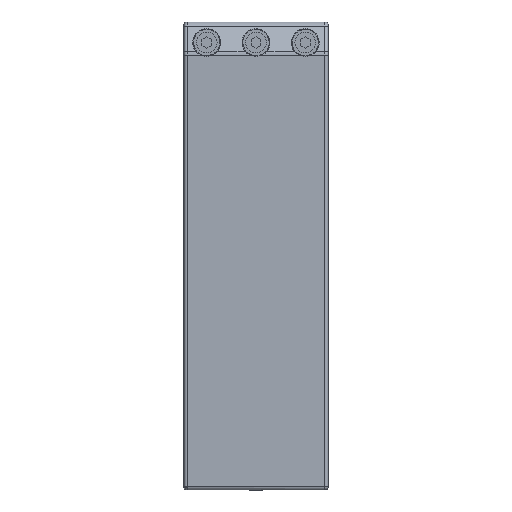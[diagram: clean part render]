
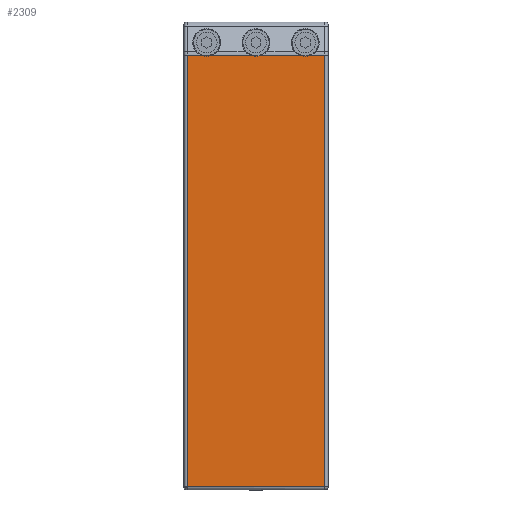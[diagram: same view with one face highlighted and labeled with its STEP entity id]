
A CAD part, top view. The second image highlights one B-rep face of the part: STEP entity #2309.
In plain terms, the highlighted planar face has unit normal (0, 0, 1).
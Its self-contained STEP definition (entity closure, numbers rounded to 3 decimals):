
#1035=CARTESIAN_POINT('Vertex',(-42.,-7.84,60.)) ;
#1042=CARTESIAN_POINT('Vertex',(-42.,-270.5,60.)) ;
#1045=CARTESIAN_POINT('Line Origine',(-42.,-130.,60.)) ;
#1364=CARTESIAN_POINT('Vertex',(42.,-7.84,60.)) ;
#1384=CARTESIAN_POINT('Line Origine',(42.,-130.,60.)) ;
#1388=CARTESIAN_POINT('Vertex',(42.,-270.5,60.)) ;
#2222=CARTESIAN_POINT('Axis2P3D Location',(0.,-7.84,60.)) ;
#2227=CARTESIAN_POINT('Line Origine',(0.,-270.5,60.)) ;
#2232=CARTESIAN_POINT('Line Origine',(37.642,-7.84,60.)) ;
#2236=CARTESIAN_POINT('Vertex',(33.285,-7.84,60.)) ;
#2240=CARTESIAN_POINT('Control Point',(33.285,-7.84,60.)) ;
#2241=CARTESIAN_POINT('Control Point',(32.494,-8.171,60.)) ;
#2242=CARTESIAN_POINT('Control Point',(31.662,-8.402,60.)) ;
#2243=CARTESIAN_POINT('Control Point',(30.805,-8.527,60.)) ;
#2244=CARTESIAN_POINT('Control Point',(29.445,-8.552,60.)) ;
#2245=CARTESIAN_POINT('Control Point',(28.115,-8.31,60.)) ;
#2246=CARTESIAN_POINT('Control Point',(27.637,-8.187,60.)) ;
#2247=CARTESIAN_POINT('Control Point',(27.169,-8.03,60.)) ;
#2248=CARTESIAN_POINT('Control Point',(26.715,-7.84,60.)) ;
#2249=CARTESIAN_POINT('Vertex',(26.715,-7.84,60.)) ;
#2252=CARTESIAN_POINT('Line Origine',(15.,-7.84,60.)) ;
#2256=CARTESIAN_POINT('Vertex',(3.285,-7.84,60.)) ;
#2260=CARTESIAN_POINT('Control Point',(3.285,-7.84,60.)) ;
#2261=CARTESIAN_POINT('Control Point',(2.494,-8.171,60.)) ;
#2262=CARTESIAN_POINT('Control Point',(1.662,-8.402,60.)) ;
#2263=CARTESIAN_POINT('Control Point',(0.805,-8.527,60.)) ;
#2264=CARTESIAN_POINT('Control Point',(-0.555,-8.552,60.)) ;
#2265=CARTESIAN_POINT('Control Point',(-1.885,-8.31,60.)) ;
#2266=CARTESIAN_POINT('Control Point',(-2.363,-8.187,60.)) ;
#2267=CARTESIAN_POINT('Control Point',(-2.831,-8.03,60.)) ;
#2268=CARTESIAN_POINT('Control Point',(-3.285,-7.84,60.)) ;
#2269=CARTESIAN_POINT('Vertex',(-3.285,-7.84,60.)) ;
#2272=CARTESIAN_POINT('Line Origine',(-15.,-7.84,60.)) ;
#2276=CARTESIAN_POINT('Vertex',(-26.715,-7.84,60.)) ;
#2280=CARTESIAN_POINT('Control Point',(-26.715,-7.84,60.)) ;
#2281=CARTESIAN_POINT('Control Point',(-27.506,-8.171,60.)) ;
#2282=CARTESIAN_POINT('Control Point',(-28.338,-8.402,60.)) ;
#2283=CARTESIAN_POINT('Control Point',(-29.195,-8.527,60.)) ;
#2284=CARTESIAN_POINT('Control Point',(-30.555,-8.552,60.)) ;
#2285=CARTESIAN_POINT('Control Point',(-31.885,-8.31,60.)) ;
#2286=CARTESIAN_POINT('Control Point',(-32.363,-8.187,60.)) ;
#2287=CARTESIAN_POINT('Control Point',(-32.831,-8.03,60.)) ;
#2288=CARTESIAN_POINT('Control Point',(-33.285,-7.84,60.)) ;
#2289=CARTESIAN_POINT('Vertex',(-33.285,-7.84,60.)) ;
#2292=CARTESIAN_POINT('Line Origine',(-37.642,-7.84,60.)) ;
#1046=DIRECTION('Vector Direction',(0.,-1.,0.)) ;
#1385=DIRECTION('Vector Direction',(0.,-1.,0.)) ;
#2223=DIRECTION('Axis2P3D Direction',(-0.,0.,1.)) ;
#2224=DIRECTION('Axis2P3D XDirection',(0.,-1.,0.)) ;
#2228=DIRECTION('Vector Direction',(1.,0.,0.)) ;
#2233=DIRECTION('Vector Direction',(1.,0.,0.)) ;
#2253=DIRECTION('Vector Direction',(1.,0.,0.)) ;
#2273=DIRECTION('Vector Direction',(1.,0.,0.)) ;
#2293=DIRECTION('Vector Direction',(1.,0.,0.)) ;
#2225=AXIS2_PLACEMENT_3D('Plane Axis2P3D',#2222,#2223,#2224) ;
#2298=ORIENTED_EDGE('',*,*,#2231,.T.) ;
#2299=ORIENTED_EDGE('',*,*,#1390,.F.) ;
#2300=ORIENTED_EDGE('',*,*,#2238,.F.) ;
#2301=ORIENTED_EDGE('',*,*,#2251,.F.) ;
#2302=ORIENTED_EDGE('',*,*,#2258,.F.) ;
#2303=ORIENTED_EDGE('',*,*,#2271,.F.) ;
#2304=ORIENTED_EDGE('',*,*,#2278,.F.) ;
#2305=ORIENTED_EDGE('',*,*,#2291,.F.) ;
#2306=ORIENTED_EDGE('',*,*,#2296,.F.) ;
#2307=ORIENTED_EDGE('',*,*,#1049,.T.) ;
#1047=VECTOR('Line Direction',#1046,1.) ;
#1386=VECTOR('Line Direction',#1385,1.) ;
#2229=VECTOR('Line Direction',#2228,1.) ;
#2234=VECTOR('Line Direction',#2233,1.) ;
#2254=VECTOR('Line Direction',#2253,1.) ;
#2274=VECTOR('Line Direction',#2273,1.) ;
#2294=VECTOR('Line Direction',#2293,1.) ;
#2309=ADVANCED_FACE('Seitenanbindung Rippe innen SW80',(#2308),#2226,.T.) ;
#2239=B_SPLINE_CURVE_WITH_KNOTS('',5,(#2240,#2241,#2242,#2243,#2244,#2245,#2246,#2247,#2248),.UNSPECIFIED.,.F.,.U.,(6,3,6),(0.,6.072,9.557),.UNSPECIFIED.) ;
#2259=B_SPLINE_CURVE_WITH_KNOTS('',5,(#2260,#2261,#2262,#2263,#2264,#2265,#2266,#2267,#2268),.UNSPECIFIED.,.F.,.U.,(6,3,6),(0.,6.072,9.557),.UNSPECIFIED.) ;
#2279=B_SPLINE_CURVE_WITH_KNOTS('',5,(#2280,#2281,#2282,#2283,#2284,#2285,#2286,#2287,#2288),.UNSPECIFIED.,.F.,.U.,(6,3,6),(0.,6.072,9.557),.UNSPECIFIED.) ;
#1049=EDGE_CURVE('',#1036,#1043,#1048,.T.) ;
#1390=EDGE_CURVE('',#1365,#1389,#1387,.T.) ;
#2231=EDGE_CURVE('',#1043,#1389,#2230,.T.) ;
#2238=EDGE_CURVE('',#2237,#1365,#2235,.T.) ;
#2251=EDGE_CURVE('',#2250,#2237,#2239,.F.) ;
#2258=EDGE_CURVE('',#2257,#2250,#2255,.T.) ;
#2271=EDGE_CURVE('',#2270,#2257,#2259,.F.) ;
#2278=EDGE_CURVE('',#2277,#2270,#2275,.T.) ;
#2291=EDGE_CURVE('',#2290,#2277,#2279,.F.) ;
#2296=EDGE_CURVE('',#1036,#2290,#2295,.T.) ;
#2297=EDGE_LOOP('',(#2298,#2299,#2300,#2301,#2302,#2303,#2304,#2305,#2306,#2307)) ;
#2308=FACE_OUTER_BOUND('',#2297,.T.) ;
#1048=LINE('Line',#1045,#1047) ;
#1387=LINE('Line',#1384,#1386) ;
#2230=LINE('Line',#2227,#2229) ;
#2235=LINE('Line',#2232,#2234) ;
#2255=LINE('Line',#2252,#2254) ;
#2275=LINE('Line',#2272,#2274) ;
#2295=LINE('Line',#2292,#2294) ;
#2226=PLANE('',#2225) ;
#1036=VERTEX_POINT('',#1035) ;
#1043=VERTEX_POINT('',#1042) ;
#1365=VERTEX_POINT('',#1364) ;
#1389=VERTEX_POINT('',#1388) ;
#2237=VERTEX_POINT('',#2236) ;
#2250=VERTEX_POINT('',#2249) ;
#2257=VERTEX_POINT('',#2256) ;
#2270=VERTEX_POINT('',#2269) ;
#2277=VERTEX_POINT('',#2276) ;
#2290=VERTEX_POINT('',#2289) ;
